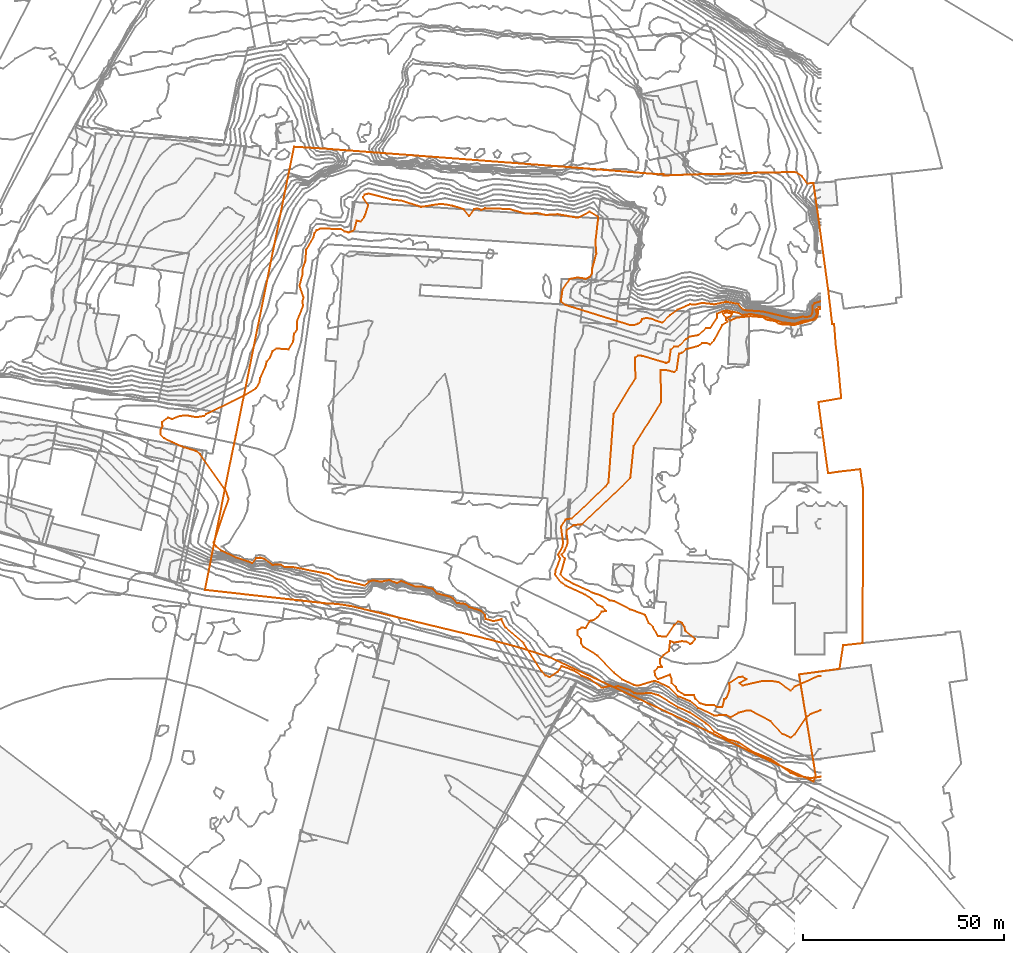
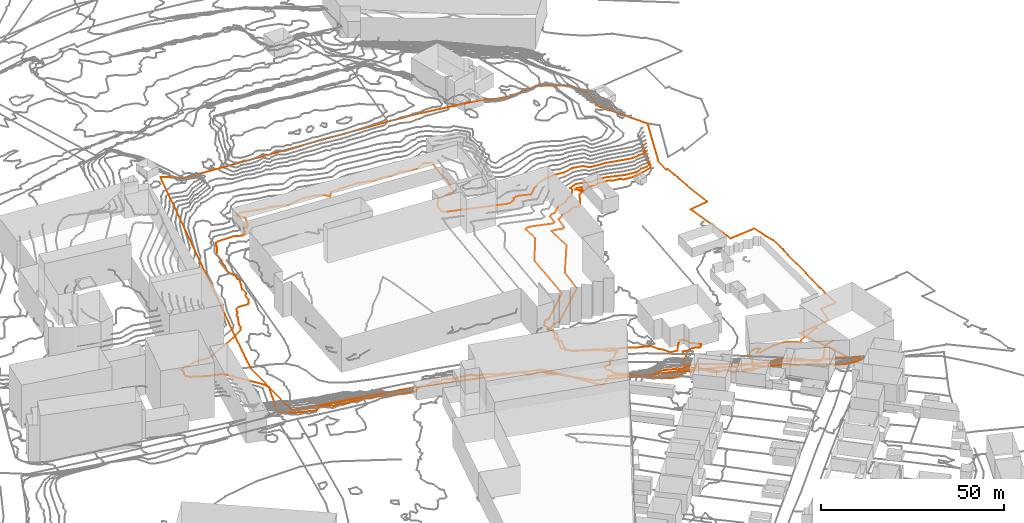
# Not in any storey, part 266 of 419: 4 proxies.
"""IFC2X3 model written with IfcOpenShell, lengths in metres."""

import ifcopenshell
import ifcopenshell.guid

model = None  # the IFC model being written
_history = None  # IfcOwnerHistory: only IFC2X3 demands one
_inside = {}  # id of a spatial element -> (the spatial element, [elements in it])
_under = {}  # id of a project, library or spatial element -> (it, [spatial elements below it])
_declared = {}  # id of a project -> (the project, [libraries it declares])
_typed = {}  # id of a type object -> (the type object, [elements of that type])
_made_of = {}  # id of a material, layer set ... -> (it, [elements and type objects made of it])


def new_model(schema):
    """Start an empty IFC model of exactly this schema.

    Asked for "IFC4X3", IfcOpenShell would pick the latest addendum, in which some entities
    have other attributes; the version numbers below select the first issue.
    IFC2X3 requires an IfcOwnerHistory on every rooted entity: one is made here for all.
    """
    global model, _history
    if schema == "IFC4X3":
        model = ifcopenshell.file(schema_version=(4, 3, 0, 0))
    else:
        model = ifcopenshell.file(schema=schema)
    _inside.clear()
    _under.clear()
    _declared.clear()
    _typed.clear()
    _made_of.clear()
    _history = None
    if model.schema == "IFC2X3":
        org = make("IfcOrganization", Name="unknown")
        user = make(
            "IfcPersonAndOrganization",
            ThePerson=make("IfcPerson", FamilyName="unknown"),
            TheOrganization=org,
        )
        app = make(
            "IfcApplication",
            ApplicationDeveloper=org,
            Version="unknown",
            ApplicationFullName="unknown",
            ApplicationIdentifier="unknown",
        )
        _history = make(
            "IfcOwnerHistory",
            OwningUser=user,
            OwningApplication=app,
            ChangeAction="ADDED",
            CreationDate=0,
        )
    return model


def make(cls, **values):
    """One entity of the class cls with the attributes given. An attribute that is None is left unset."""
    return model.create_entity(
        cls, **{name: value for name, value in values.items() if value is not None}
    )


def entity(cls, *values):
    """Any entity or typed value of the class cls, its attributes in the order of the schema. None: left unset."""
    e = model.create_entity(cls)
    for i, value in enumerate(values):
        if value is not None:
            e[i] = value
    return e


def rooted(cls, **values):
    """An entity with a GlobalId (a new one), such as an element, a storey or a relation."""
    return make(cls, GlobalId=ifcopenshell.guid.new(), OwnerHistory=_history, **values)


def si_unit(unit_type, name, prefix=None):
    """IfcSIUnit, for example si_unit("LENGTHUNIT", "METRE", prefix="MILLI")."""
    return make("IfcSIUnit", UnitType=unit_type, Prefix=prefix, Name=name)


def assignment(units):
    """IfcUnitAssignment: the units of a project."""
    return None if units is None else make("IfcUnitAssignment", Units=units)


def point(xyz):
    """IfcCartesianPoint."""
    return None if xyz is None else make("IfcCartesianPoint", Coordinates=xyz)


def direction(xyz):
    """IfcDirection."""
    return None if xyz is None else make("IfcDirection", DirectionRatios=xyz)


def frame(location, z_axis=None, x_axis=None):
    """IfcAxis2Placement3D, a coordinate frame: its origin and axes. An axis left out is left unset."""
    return make(
        "IfcAxis2Placement3D",
        Location=point(location),
        Axis=direction(z_axis),
        RefDirection=direction(x_axis),
    )


def origin_with_axes():
    """The frame at (0, 0, 0) with the z axis (0, 0, 1) and the x axis (1, 0, 0) written out."""
    return frame((0.0, 0.0, 0.0), z_axis=(0.0, 0.0, 1.0), x_axis=(1.0, 0.0, 0.0))


def place(relative_to, where):
    """IfcLocalPlacement: puts the frame where relative to a parent placement (None: the world)."""
    return make(
        "IfcLocalPlacement", PlacementRelTo=relative_to, RelativePlacement=where
    )


def context(
    kind, dimensions, precision=None, world=None, true_north=None, identifier=None
):
    """IfcGeometricRepresentationContext, for example the 3D "Model" context."""
    return make(
        "IfcGeometricRepresentationContext",
        ContextIdentifier=identifier,
        ContextType=kind,
        CoordinateSpaceDimension=dimensions,
        Precision=precision,
        WorldCoordinateSystem=world,
        TrueNorth=true_north,
    )


def subcontext(parent, identifier, kind, view, scale=None):
    """IfcGeometricRepresentationSubContext, for example "Body" below "Model"."""
    return make(
        "IfcGeometricRepresentationSubContext",
        ContextIdentifier=identifier,
        ContextType=kind,
        ParentContext=parent,
        TargetScale=scale,
        TargetView=view,
    )


def project(units=None, contexts=None):
    """IfcProject with its units and contexts."""
    return rooted(
        "IfcProject",
        Name="project",
        RepresentationContexts=contexts,
        UnitsInContext=assignment(units),
    )


def shape(context_of_items, identifier, shape_type, items):
    """IfcShapeRepresentation: the items that make up one representation, for example the "Body"."""
    return make(
        "IfcShapeRepresentation",
        ContextOfItems=context_of_items,
        RepresentationIdentifier=identifier,
        RepresentationType=shape_type,
        Items=items,
    )


def made_of(thing, what):
    """Note that an element or type object is made of a material, layer set ...; save() writes the relation."""
    if what is not None:
        _made_of.setdefault(what.id(), (what, []))[1].append(thing)
    return thing


def element(
    cls,
    number,
    at=None,
    inside=None,
    cuts=None,
    type_object=None,
    material=None,
    context=None,
    identifier="Body",
    shape_type=None,
    held_by="IfcProductDefinitionShape",
    body=None,
    shapes=None,
    **own,
):
    """One element of the class cls, such as IfcWall. Its Tag is "e" and its number.

    at: its placement. inside: the storey or other place that contains it. cuts: it is an
    opening in that element (IfcRelVoidsElement). A single representation is given by context,
    identifier, shape_type and body (its items); several are given by shapes. held_by: the class
    of the entity that holds the representations. save() writes the other relations.
    """
    e = rooted(cls, Tag="e%d" % number, ObjectPlacement=at, **own)
    if body is not None:
        shapes = [shape(context, identifier, shape_type, body)]
    if shapes is not None:
        e.Representation = make(held_by, Representations=shapes)
    if inside is not None:
        _inside.setdefault(inside.id(), (inside, []))[1].append(e)
    if cuts is not None:
        rooted(
            "IfcRelVoidsElement", RelatingBuildingElement=cuts, RelatedOpeningElement=e
        )
    if type_object is not None:
        _typed.setdefault(type_object.id(), (type_object, []))[1].append(e)
    return made_of(e, material)


def aggregate(whole, parts):
    """IfcRelAggregates: a whole, such as a stair, and the parts it consists of."""
    return rooted("IfcRelAggregates", RelatingObject=whole, RelatedObjects=parts)


def save(model, path):
    """Write the relations noted so far, then the file.

    IfcRelAggregates (storeys below a building ...), IfcRelContainedInSpatialStructure (elements
    in a storey), IfcRelDefinesByType, IfcRelAssociatesMaterial and IfcRelDeclares: one each for
    every whole, place, type object, material and project.
    """
    for whole, parts in _under.values():
        aggregate(whole, parts)
    for where, things in _inside.values():
        rooted(
            "IfcRelContainedInSpatialStructure",
            RelatedElements=things,
            RelatingStructure=where,
        )
    for kind, things in _typed.values():
        rooted("IfcRelDefinesByType", RelatedObjects=things, RelatingType=kind)
    for what, things in _made_of.values():
        rooted("IfcRelAssociatesMaterial", RelatedObjects=things, RelatingMaterial=what)
    for by, libraries in _declared.values():
        rooted("IfcRelDeclares", RelatingContext=by, RelatedDefinitions=libraries)
    model.write(path)


model = new_model("IFC2X3")

# Units and contexts
model_context = context("Model", 3, precision=1e-05, world=origin_with_axes())
body_context = subcontext(model_context, "Body", "Model", "MODEL_VIEW")
ifc_project = project(units=[si_unit("AREAUNIT", "SQUARE_METRE"), si_unit("LENGTHUNIT", "METRE")], contexts=[model_context])

# Proxies
proxy_1_placement = place(None, frame((823.2920204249, 359.1176909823, 82.1932387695), z_axis=(0.0, 0.0, 1.0), x_axis=(1.0, 0.0, 0.0)))
element("IfcBuildingElementProxy", 1, at=proxy_1_placement, Name="Cadastre 31", ObjectType="NOTDEFINED", context=body_context, shape_type="GeometricCurveSet", body=[
    entity("IfcGeometricCurveSet", [entity("IfcPolyline", [entity("IfcCartesianPoint", [151.47, -47.71, -6.2456293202]), entity("IfcCartesianPoint", [140.71, -42.6099999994, -6.6842020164]), entity("IfcCartesianPoint", [132.8099999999, -38.8999999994, -6.4587627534]), entity("IfcCartesianPoint", [125.22, -35.21, -7.0477667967]), entity("IfcCartesianPoint", [85.6799999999, -16.7199999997, -9.9244397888]), entity("IfcCartesianPoint", [78.22, -14.3399999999, -7.2026421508]), entity("IfcCartesianPoint", [71.4199999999, -12.5099999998, -3.7872431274]), entity("IfcCartesianPoint", [40.0499999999, -4.9199999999, -2.7772403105]), entity("IfcCartesianPoint", [36.0199999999, -3.9699999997, -2.5515360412]), entity("IfcCartesianPoint", [32.8999999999, -3.5099999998, -2.4744575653]), entity("IfcCartesianPoint", [30.0699999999, -3.3399999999, -2.1826726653]), entity("IfcCartesianPoint", [0.0, 0.0, 0.0]), entity("IfcCartesianPoint", [6.73, 33.8700000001, -8.9814376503]), entity("IfcCartesianPoint", [7.6899999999, 38.3200000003, -8.9176826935]), entity("IfcCartesianPoint", [22.2, 110.3100000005, 3.1446906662]), entity("IfcCartesianPoint", [29.4399999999, 109.8600000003, 0.5168230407]), entity("IfcCartesianPoint", [91.0499999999, 105.2000000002, 0.5810593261]), entity("IfcCartesianPoint", [99.8099999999, 104.5, 0.4727026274]), entity("IfcCartesianPoint", [112.99, 103.4500000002, -0.2532362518]), entity("IfcCartesianPoint", [114.1499999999, 103.5, -0.23628685]), entity("IfcCartesianPoint", [114.1399999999, 103.1800000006, -0.2665162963]), entity("IfcCartesianPoint", [114.8999999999, 103.1800000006, -0.2624367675]), entity("IfcCartesianPoint", [121.1399999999, 103.4000000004, -1.3342921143]), entity("IfcCartesianPoint", [122.6699999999, 103.4500000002, -2.1352347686]), entity("IfcCartesianPoint", [128.23, 103.5700000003, -3.0919394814]), entity("IfcCartesianPoint", [129.0699999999, 103.54, -3.0223084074]), entity("IfcCartesianPoint", [130.0299999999, 103.6100000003, -3.0844468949]), entity("IfcCartesianPoint", [135.0, 103.75, -2.951229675]), entity("IfcCartesianPoint", [137.0299999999, 103.8200000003, -2.6332462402]), entity("IfcCartesianPoint", [146.7599999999, 104.0200000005, -6.1156542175]), entity("IfcCartesianPoint", [147.3199999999, 103.8400000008, -6.2584302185]), entity("IfcCartesianPoint", [148.72, 102.8800000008, -6.8069994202]), entity("IfcCartesianPoint", [149.98, 101.1800000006, -7.7630413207]), entity("IfcCartesianPoint", [151.5, 101.2700000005, -8.460298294]), entity("IfcCartesianPoint", [152.3099999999, 95.6100000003, -10.1520353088]), entity("IfcCartesianPoint", [155.2, 74.5100000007, -3.9377398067]), entity("IfcCartesianPoint", [155.7799999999, 69.5300000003, -13.7207389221]), entity("IfcCartesianPoint", [156.1699999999, 66.21, -14.5811382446]), entity("IfcCartesianPoint", [156.6499999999, 66.2000000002, -14.5808382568]), entity("IfcCartesianPoint", [156.8899999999, 63.0700000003, -14.5711371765]), entity("IfcCartesianPoint", [157.0199999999, 61.2000000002, -14.5256405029]), entity("IfcCartesianPoint", [157.5399999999, 57.1800000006, -14.8962409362]), entity("IfcCartesianPoint", [158.4199999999, 47.7200000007, -14.8404372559]), entity("IfcCartesianPoint", [152.73, 46.7800000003, -14.8582358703]), entity("IfcCartesianPoint", [155.1399999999, 29.0300000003, -14.6282382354]), entity("IfcCartesianPoint", [157.5199999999, 29.3900000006, -14.6631382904]), entity("IfcCartesianPoint", [163.1499999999, 30.0600000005, -14.7234409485]), entity("IfcCartesianPoint", [163.63, 26.6500000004, -14.5280388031]), entity("IfcCartesianPoint", [163.7999999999, 25.4500000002, -14.5464392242]), entity("IfcCartesianPoint", [163.85, 21.0100000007, -13.4127404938]), entity("IfcCartesianPoint", [163.88, 16.8900000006, -13.1610395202]), entity("IfcCartesianPoint", [163.8899999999, 15.6900000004, -13.1968381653]), entity("IfcCartesianPoint", [163.86, 14.9000000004, -13.2322365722]), entity("IfcCartesianPoint", [163.7999999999, 12.6600000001, -13.3380420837]), entity("IfcCartesianPoint", [163.7899999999, 8.1300000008, -13.403237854]), entity("IfcCartesianPoint", [163.7899999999, 2.9800000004, -13.4062384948]), entity("IfcCartesianPoint", [163.7799999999, -0.46, -13.4506403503]), entity("IfcCartesianPoint", [163.7599999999, -4.6499999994, -13.535335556]), entity("IfcCartesianPoint", [163.73, -7.46, -13.4758381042]), entity("IfcCartesianPoint", [163.6899999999, -9.3399999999, -13.4408382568]), entity("IfcCartesianPoint", [163.73, -10.8899999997, -13.4415384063]), entity("IfcCartesianPoint", [163.73, -13.25, -13.4285392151]), entity("IfcCartesianPoint", [158.8999999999, -13.7799999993, -13.4344368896]), entity("IfcCartesianPoint", [157.96, -19.6399999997, -13.3404384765]), entity("IfcCartesianPoint", [147.9399999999, -21.04, -13.3596552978]), entity("IfcCartesianPoint", [151.3999999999, -42.2599999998, -9.9126985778]), entity("IfcCartesianPoint", [151.5699999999, -43.1499999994, -9.6566625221]), entity("IfcCartesianPoint", [152.0599999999, -46.2799999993, -7.9669834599]), entity("IfcCartesianPoint", [151.47, -47.71, -6.2456293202])])]),
])
proxy_2_placement = place(None, frame((911.7893852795, 362.8976909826, 69.0), z_axis=(0.0, 0.0, 1.0), x_axis=(1.0, 0.0, 0.0)))
element("IfcBuildingElementProxy", 2, at=proxy_2_placement, Name="Contour 69.0 m", ObjectType="NOTDEFINED", context=body_context, shape_type="GeometricCurveSet", body=[
    entity("IfcGeometricCurveSet", [entity("IfcPolyline", [entity("IfcCartesianPoint", [64.8026351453, 66.1904770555, 0.0]), entity("IfcCartesianPoint", [64.0816404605, 66.0, 0.0]), entity("IfcCartesianPoint", [64.1369376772, 65.0, 0.0]), entity("IfcCartesianPoint", [63.798396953, 64.0, 0.0]), entity("IfcCartesianPoint", [63.3026351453, 63.5393709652, 0.0]), entity("IfcCartesianPoint", [58.3026351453, 62.1710519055, 0.0]), entity("IfcCartesianPoint", [55.3026351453, 62.2864323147, 0.0]), entity("IfcCartesianPoint", [54.3026351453, 62.5041331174, 0.0]), entity("IfcCartesianPoint", [53.3026351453, 63.1384605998, 0.0]), entity("IfcCartesianPoint", [51.3026351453, 63.4545454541, 0.0]), entity("IfcCartesianPoint", [50.3026351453, 64.0983142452, 0.0]), entity("IfcCartesianPoint", [47.3026351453, 64.3426972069, 0.0]), entity("IfcCartesianPoint", [43.9026198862, 64.0, 0.0]), entity("IfcCartesianPoint", [42.3026351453, 63.2221939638, 0.0]), entity("IfcCartesianPoint", [41.5248291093, 64.0, 0.0]), entity("IfcCartesianPoint", [42.3026351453, 64.3181786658, 0.0]), entity("IfcCartesianPoint", [42.7312128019, 65.0, 0.0]), entity("IfcCartesianPoint", [41.3026351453, 65.2673792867, 0.0]), entity("IfcCartesianPoint", [40.4405689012, 65.0, 0.0]), entity("IfcCartesianPoint", [41.2581978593, 64.0, 0.0]), entity("IfcCartesianPoint", [41.3026351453, 63.3334181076, 0.0]), entity("IfcCartesianPoint", [41.6360532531, 63.0, 0.0]), entity("IfcCartesianPoint", [40.3026351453, 62.1666719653, 0.0]), entity("IfcCartesianPoint", [38.3026351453, 58.434784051, 0.0]), entity("IfcCartesianPoint", [37.3026351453, 57.2916679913, 0.0]), entity("IfcCartesianPoint", [36.3026351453, 57.7083320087, 0.0]), entity("IfcCartesianPoint", [35.3026351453, 57.6756706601, 0.0]), entity("IfcCartesianPoint", [34.3026351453, 56.9459543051, 0.0]), entity("IfcCartesianPoint", [31.3026351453, 56.1388971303, 0.0]), entity("IfcCartesianPoint", [30.3026351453, 55.2558151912, 0.0]), entity("IfcCartesianPoint", [29.5169130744, 55.0, 0.0]), entity("IfcCartesianPoint", [28.9454870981, 51.0, 0.0]), entity("IfcCartesianPoint", [28.3026351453, 50.4375019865, 0.0]), entity("IfcCartesianPoint", [26.0526589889, 51.0, 0.0]), entity("IfcCartesianPoint", [24.9276411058, 51.0, 0.0]), entity("IfcCartesianPoint", [25.1026656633, 43.0, 0.0]), entity("IfcCartesianPoint", [18.2359549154, 32.0, 0.0]), entity("IfcCartesianPoint", [17.3935316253, 24.0, 0.0]), entity("IfcCartesianPoint", [5.3026351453, 12.5357220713, 0.0]), entity("IfcCartesianPoint", [3.3026351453, 12.3513516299, 0.0]), entity("IfcCartesianPoint", [1.4798493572, 11.0, 0.0]), entity("IfcCartesianPoint", [1.8470762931, 8.0, 0.0]), entity("IfcCartesianPoint", [1.0818573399, 6.0, 0.0]), entity("IfcCartesianPoint", [0.3026362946, 5.0, 0.0]), entity("IfcCartesianPoint", [1.1379296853, 4.0, 0.0]), entity("IfcCartesianPoint", [0.0, 0.0, 0.0]), entity("IfcCartesianPoint", [1.3026351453, -1.2463760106, 0.0]), entity("IfcCartesianPoint", [3.3026351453, -2.3043471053, 0.0]), entity("IfcCartesianPoint", [8.3026351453, -4.6125008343, 0.0]), entity("IfcCartesianPoint", [10.3026351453, -5.2537293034, 0.0]), entity("IfcCartesianPoint", [12.3026351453, -6.424997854, 0.0]), entity("IfcCartesianPoint", [13.3026351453, -6.5479447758, 0.0]), entity("IfcCartesianPoint", [17.3026351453, -8.6144590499, 0.0]), entity("IfcCartesianPoint", [21.1111509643, -10.0, 0.0]), entity("IfcCartesianPoint", [22.0085188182, -12.0, 0.0]), entity("IfcCartesianPoint", [23.0455016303, -13.0, 0.0]), entity("IfcCartesianPoint", [24.3026351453, -15.285667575, 0.0]), entity("IfcCartesianPoint", [26.3026351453, -15.4444350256, 0.0]), entity("IfcCartesianPoint", [28.3026351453, -12.5714441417, 0.0]), entity("IfcCartesianPoint", [29.3026351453, -11.60003052, 0.0]), entity("IfcCartesianPoint", [30.3026851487, -12.0, 0.0]), entity("IfcCartesianPoint", [30.9026656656, -13.0, 0.0]), entity("IfcCartesianPoint", [31.1026046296, -14.0, 0.0]), entity("IfcCartesianPoint", [33.5026656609, -16.0, 0.0]), entity("IfcCartesianPoint", [32.8026601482, -17.0, 0.0]), entity("IfcCartesianPoint", [32.3026351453, -17.2499761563, 0.0]), entity("IfcCartesianPoint", [31.3026351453, -16.6818213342, 0.0]), entity("IfcCartesianPoint", [30.3026351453, -16.5500114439, 0.0]), entity("IfcCartesianPoint", [28.3026351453, -16.8749761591, 0.0]), entity("IfcCartesianPoint", [27.3026351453, -16.5000250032, 0.0]), entity("IfcCartesianPoint", [27.0525874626, -19.0, 0.0]), entity("IfcCartesianPoint", [25.6360532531, -20.0, 0.0]), entity("IfcCartesianPoint", [24.8026601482, -21.0, 0.0]), entity("IfcCartesianPoint", [24.8026851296, -22.0, 0.0]), entity("IfcCartesianPoint", [25.3026601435, -23.0, 0.0]), entity("IfcCartesianPoint", [24.3026351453, -23.0000166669, 0.0]), entity("IfcCartesianPoint", [23.4455234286, -24.0, 0.0]), entity("IfcCartesianPoint", [23.5883027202, -25.0, 0.0]), entity("IfcCartesianPoint", [24.3026351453, -25.9999800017, 0.0]), entity("IfcCartesianPoint", [27.3026351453, -24.8888700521, 0.0]), entity("IfcCartesianPoint", [27.7193177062, -26.0, 0.0]), entity("IfcCartesianPoint", [27.7193177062, -27.0, 0.0]), entity("IfcCartesianPoint", [28.8026601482, -28.0, 0.0]), entity("IfcCartesianPoint", [29.278239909, -29.0, 0.0]), entity("IfcCartesianPoint", [30.9692170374, -30.0, 0.0]), entity("IfcCartesianPoint", [33.3026351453, -29.9999875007, 0.0]), entity("IfcCartesianPoint", [33.6360532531, -31.0, 0.0]), entity("IfcCartesianPoint", [34.7026046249, -32.0, 0.0]), entity("IfcCartesianPoint", [36.3026351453, -32.4285558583, 0.0]), entity("IfcCartesianPoint", [38.3026351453, -32.4999833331, 0.0]), entity("IfcCartesianPoint", [39.0525874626, -33.0, 0.0]), entity("IfcCartesianPoint", [40.3025351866, -33.0, 0.0]), entity("IfcCartesianPoint", [40.8026101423, -31.0, 0.0]), entity("IfcCartesianPoint", [41.3026351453, -30.7500238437, 0.0]), entity("IfcCartesianPoint", [41.994929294, -29.0, 0.0]), entity("IfcCartesianPoint", [42.177611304, -28.0, 0.0]), entity("IfcCartesianPoint", [41.994929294, -27.0, 0.0]), entity("IfcCartesianPoint", [44.3026351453, -25.4545706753, 0.0]), entity("IfcCartesianPoint", [45.3026351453, -25.39996948, 0.0]), entity("IfcCartesianPoint", [46.3026684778, -26.0, 0.0]), entity("IfcCartesianPoint", [44.5526828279, -27.0, 0.0]), entity("IfcCartesianPoint", [45.3026351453, -27.60003052, 0.0]), entity("IfcCartesianPoint", [50.3026351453, -26.4375089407, 0.0]), entity("IfcCartesianPoint", [53.3026351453, -26.5454293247, 0.0]), entity("IfcCartesianPoint", [54.3026351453, -26.7778060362, 0.0]), entity("IfcCartesianPoint", [57.3026351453, -28.8749761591, 0.0]), entity("IfcCartesianPoint", [58.3026351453, -27.8333545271, 0.0]), entity("IfcCartesianPoint", [64.3026351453, -25.1666454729, 0.0]), entity("IfcCartesianPoint", [64.8026351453, -25.1666454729, 0.0])])]),
])
proxy_3_placement = place(None, frame((910.4653521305, 362.8976909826, 70.0), z_axis=(0.0, 0.0, 1.0), x_axis=(1.0, 0.0, 0.0)))
element("IfcBuildingElementProxy", 3, at=proxy_3_placement, Name="Contour 70.0 m", ObjectType="NOTDEFINED", context=body_context, shape_type="GeometricCurveSet", body=[
    entity("IfcGeometricCurveSet", [entity("IfcPolyline", [entity("IfcCartesianPoint", [66.1266682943, 66.6666678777, 0.0]), entity("IfcCartesianPoint", [65.6266682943, 66.6666678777, 0.0]), entity("IfcCartesianPoint", [64.8531890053, 66.0, 0.0]), entity("IfcCartesianPoint", [65.1702733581, 65.0, 0.0]), entity("IfcCartesianPoint", [64.6266682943, 63.9330716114, 0.0]), entity("IfcCartesianPoint", [63.6266682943, 63.365801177, 0.0]), entity("IfcCartesianPoint", [61.6266682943, 63.1879897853, 0.0]), entity("IfcCartesianPoint", [59.6266682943, 62.4999996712, 0.0]), entity("IfcCartesianPoint", [56.6266682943, 62.7889454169, 0.0]), entity("IfcCartesianPoint", [51.6266682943, 64.3792133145, 0.0]), entity("IfcCartesianPoint", [48.6266682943, 64.9044953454, 0.0]), entity("IfcCartesianPoint", [46.6266682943, 64.6514282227, 0.0]), entity("IfcCartesianPoint", [45.6266682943, 65.1502899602, 0.0]), entity("IfcCartesianPoint", [42.6266682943, 65.8021378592, 0.0]), entity("IfcCartesianPoint", [41.6266682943, 65.5443792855, 0.0]), entity("IfcCartesianPoint", [40.3078270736, 65.0, 0.0]), entity("IfcCartesianPoint", [40.3084896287, 64.0, 0.0]), entity("IfcCartesianPoint", [38.6266682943, 61.4166640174, 0.0]), entity("IfcCartesianPoint", [37.6266682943, 61.4324391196, 0.0]), entity("IfcCartesianPoint", [35.6266682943, 59.62162608, 0.0]), entity("IfcCartesianPoint", [33.6266682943, 59.3055567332, 0.0]), entity("IfcCartesianPoint", [32.6266682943, 58.7073129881, 0.0]), entity("IfcCartesianPoint", [30.6266682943, 56.7727280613, 0.0]), entity("IfcCartesianPoint", [29.6266682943, 56.736839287, 0.0]), entity("IfcCartesianPoint", [28.8031336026, 56.0, 0.0]), entity("IfcCartesianPoint", [28.3766587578, 53.0, 0.0]), entity("IfcCartesianPoint", [27.6266682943, 52.7169776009, 0.0]), entity("IfcCartesianPoint", [21.6266682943, 54.4912261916, 0.0]), entity("IfcCartesianPoint", [20.6266682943, 54.5217434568, 0.0]), entity("IfcCartesianPoint", [19.8766682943, 54.0, 0.0]), entity("IfcCartesianPoint", [20.0266682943, 49.0, 0.0]), entity("IfcCartesianPoint", [14.5740261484, 40.0, 0.0]), entity("IfcCartesianPoint", [13.2933490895, 23.0, 0.0]), entity("IfcCartesianPoint", [12.5849936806, 22.0, 0.0]), entity("IfcCartesianPoint", [4.1066792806, 14.0, 0.0]), entity("IfcCartesianPoint", [2.6266682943, 13.75, 0.0]), entity("IfcCartesianPoint", [1.487130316, 12.0, 0.0]), entity("IfcCartesianPoint", [1.9970400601, 8.0, 0.0]), entity("IfcCartesianPoint", [1.8205476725, 7.0, 0.0]), entity("IfcCartesianPoint", [0.7792108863, 5.0, 0.0]), entity("IfcCartesianPoint", [1.2500458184, 4.0, 0.0]), entity("IfcCartesianPoint", [0.119420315, 1.0, 0.0]), entity("IfcCartesianPoint", [0.0, 0.0, 0.0]), entity("IfcCartesianPoint", [1.6266682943, -1.9999980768, 0.0]), entity("IfcCartesianPoint", [2.6266682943, -2.7499970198, 0.0]), entity("IfcCartesianPoint", [7.5214199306, -5.0, 0.0]), entity("IfcCartesianPoint", [9.12667385, -6.0, 0.0]), entity("IfcCartesianPoint", [10.6266682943, -7.5555649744, 0.0]), entity("IfcCartesianPoint", [11.7804918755, -8.0, 0.0]), entity("IfcCartesianPoint", [12.689180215, -9.0, 0.0]), entity("IfcCartesianPoint", [11.6266682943, -9.2000305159, 0.0]), entity("IfcCartesianPoint", [10.6266682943, -10.5000250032, 0.0]), entity("IfcCartesianPoint", [9.6266682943, -11.2500476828, 0.0]), entity("IfcCartesianPoint", [8.6266682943, -11.5000250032, 0.0]), entity("IfcCartesianPoint", [7.6266682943, -13.2500476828, 0.0]), entity("IfcCartesianPoint", [6.6266682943, -13.1817992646, 0.0]), entity("IfcCartesianPoint", [5.6266682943, -13.7500238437, 0.0]), entity("IfcCartesianPoint", [5.6266782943, -15.0, 0.0]), entity("IfcCartesianPoint", [6.501644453, -16.0, 0.0]), entity("IfcCartesianPoint", [6.4728447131, -17.0, 0.0]), entity("IfcCartesianPoint", [7.0933281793, -18.0, 0.0]), entity("IfcCartesianPoint", [10.6266682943, -20.1764653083, 0.0]), entity("IfcCartesianPoint", [14.6266682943, -24.3749940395, 0.0]), entity("IfcCartesianPoint", [16.6266682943, -26.0500095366, 0.0]), entity("IfcCartesianPoint", [19.6266682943, -27.4583399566, 0.0]), entity("IfcCartesianPoint", [20.6266682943, -27.6363573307, 0.0]), entity("IfcCartesianPoint", [24.6266682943, -26.4285720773, 0.0]), entity("IfcCartesianPoint", [25.6266682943, -26.7462706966, 0.0]), entity("IfcCartesianPoint", [28.2316057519, -28.0, 0.0]), entity("IfcCartesianPoint", [30.6266682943, -30.2742876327, 0.0]), entity("IfcCartesianPoint", [33.6266682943, -31.4838700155, 0.0]), entity("IfcCartesianPoint", [35.6266682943, -33.1455715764, 0.0]), entity("IfcCartesianPoint", [39.6266682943, -35.0380959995, 0.0]), entity("IfcCartesianPoint", [42.6266682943, -34.913041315, 0.0]), entity("IfcCartesianPoint", [43.6266682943, -35.5526331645, 0.0]), entity("IfcCartesianPoint", [45.6266682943, -34.3749940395, 0.0]), entity("IfcCartesianPoint", [47.6266682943, -33.8125029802, 0.0]), entity("IfcCartesianPoint", [48.6266682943, -33.8333545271, 0.0]), entity("IfcCartesianPoint", [53.6266682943, -36.4444350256, 0.0]), entity("IfcCartesianPoint", [56.6266682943, -39.6250238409, 0.0]), entity("IfcCartesianPoint", [58.6266682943, -40.5555649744, 0.0]), entity("IfcCartesianPoint", [59.6266682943, -39.7500238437, 0.0]), entity("IfcCartesianPoint", [62.6266682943, -35.3749761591, 0.0]), entity("IfcCartesianPoint", [63.6266682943, -34.6363573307, 0.0]), entity("IfcCartesianPoint", [66.1266682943, -33.7272853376, 0.0])])]),
])
proxy_4_placement = place(None, frame((812.2170442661, 397.8976909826, 74.0), z_axis=(0.0, 0.0, 1.0), x_axis=(1.0, 0.0, 0.0)))
element("IfcBuildingElementProxy", 4, at=proxy_4_placement, Name="Contour 74.0 m", ObjectType="NOTDEFINED", context=body_context, shape_type="GeometricCurveSet", body=[
    entity("IfcGeometricCurveSet", [entity("IfcPolyline", [entity("IfcCartesianPoint", [164.3749761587, 33.0656935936, 0.0]), entity("IfcCartesianPoint", [162.8749761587, 32.6022413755, 0.0]), entity("IfcCartesianPoint", [162.3885502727, 32.0, 0.0]), entity("IfcCartesianPoint", [162.2816615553, 30.0, 0.0]), entity("IfcCartesianPoint", [161.8749761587, 29.4229249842, 0.0]), entity("IfcCartesianPoint", [160.8749761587, 29.0904651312, 0.0]), entity("IfcCartesianPoint", [159.8749761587, 29.2323757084, 0.0]), entity("IfcCartesianPoint", [157.8749761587, 28.8184812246, 0.0]), entity("IfcCartesianPoint", [156.8749761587, 28.9144730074, 0.0]), entity("IfcCartesianPoint", [149.8749761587, 30.5173414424, 0.0]), entity("IfcCartesianPoint", [145.8749761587, 30.81579029, 0.0]), entity("IfcCartesianPoint", [144.9999772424, 31.0, 0.0]), entity("IfcCartesianPoint", [143.8749761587, 32.3703688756, 0.0]), entity("IfcCartesianPoint", [140.8749761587, 32.9465247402, 0.0]), entity("IfcCartesianPoint", [137.8749761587, 32.297103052, 0.0]), entity("IfcCartesianPoint", [134.8749761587, 32.6571432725, 0.0]), entity("IfcCartesianPoint", [132.8749761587, 32.1900024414, 0.0]), entity("IfcCartesianPoint", [131.8749761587, 32.333333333, 0.0]), entity("IfcCartesianPoint", [128.7398337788, 31.0, 0.0]), entity("IfcCartesianPoint", [126.8749761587, 29.6590893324, 0.0]), entity("IfcCartesianPoint", [124.8749761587, 27.7213147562, 0.0]), entity("IfcCartesianPoint", [121.8749761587, 28.7936542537, 0.0]), entity("IfcCartesianPoint", [120.8749761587, 28.8870977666, 0.0]), entity("IfcCartesianPoint", [119.8749761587, 28.6667090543, 0.0]), entity("IfcCartesianPoint", [119.6844947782, 28.0, 0.0]), entity("IfcCartesianPoint", [118.8749761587, 27.4687552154, 0.0]), entity("IfcCartesianPoint", [117.8749761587, 27.0937462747, 0.0]), entity("IfcCartesianPoint", [116.8749761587, 27.1276540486, 0.0]), entity("IfcCartesianPoint", [100.8749761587, 32.1132032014, 0.0]), entity("IfcCartesianPoint", [99.6834919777, 33.0, 0.0]), entity("IfcCartesianPoint", [100.0971964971, 36.0, 0.0]), entity("IfcCartesianPoint", [101.8749761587, 38.6176510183, 0.0]), entity("IfcCartesianPoint", [103.8749761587, 38.9890086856, 0.0]), entity("IfcCartesianPoint", [105.8749761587, 38.6415111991, 0.0]), entity("IfcCartesianPoint", [106.8749761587, 39.124996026, 0.0]), entity("IfcCartesianPoint", [107.4637588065, 40.0, 0.0]), entity("IfcCartesianPoint", [107.4374755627, 41.0, 0.0]), entity("IfcCartesianPoint", [108.5178371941, 45.0, 0.0]), entity("IfcCartesianPoint", [108.3055275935, 48.0, 0.0]), entity("IfcCartesianPoint", [109.0054131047, 54.0, 0.0]), entity("IfcCartesianPoint", [106.8749761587, 55.3563210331, 0.0]), entity("IfcCartesianPoint", [103.8749761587, 53.8461515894, 0.0]), entity("IfcCartesianPoint", [98.8749761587, 54.7358495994, 0.0]), entity("IfcCartesianPoint", [95.8749761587, 54.5468731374, 0.0]), entity("IfcCartesianPoint", [93.8749761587, 55.0119072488, 0.0]), entity("IfcCartesianPoint", [90.8749761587, 54.8749970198, 0.0]), entity("IfcCartesianPoint", [86.8749761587, 56.0192276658, 0.0]), entity("IfcCartesianPoint", [80.8749761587, 56.2112688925, 0.0]), entity("IfcCartesianPoint", [79.8749761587, 55.8305100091, 0.0]), entity("IfcCartesianPoint", [78.8749761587, 56.2053596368, 0.0]), entity("IfcCartesianPoint", [78.1330422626, 56.0, 0.0]), entity("IfcCartesianPoint", [76.8749761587, 54.2999923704, 0.0]), entity("IfcCartesianPoint", [75.4582935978, 56.0, 0.0]), entity("IfcCartesianPoint", [72.8749761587, 56.8157889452, 0.0]), entity("IfcCartesianPoint", [69.8749761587, 57.3285740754, 0.0]), entity("IfcCartesianPoint", [64.8749761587, 56.570177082, 0.0]), entity("IfcCartesianPoint", [59.8749761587, 58.1325305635, 0.0]), entity("IfcCartesianPoint", [57.8749761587, 58.2999990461, 0.0]), entity("IfcCartesianPoint", [51.8749761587, 59.8730139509, 0.0]), entity("IfcCartesianPoint", [50.8749761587, 59.666662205, 0.0]), entity("IfcCartesianPoint", [50.4058423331, 59.0, 0.0]), entity("IfcCartesianPoint", [51.7149724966, 57.0, 0.0]), entity("IfcCartesianPoint", [50.7549810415, 54.0, 0.0]), entity("IfcCartesianPoint", [49.8749761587, 52.8947516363, 0.0]), entity("IfcCartesianPoint", [48.8749761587, 53.0999847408, 0.0]), entity("IfcCartesianPoint", [48.2916463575, 51.0, 0.0]), entity("IfcCartesianPoint", [47.8749761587, 50.5454524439, 0.0]), entity("IfcCartesianPoint", [46.8749761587, 50.2253551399, 0.0]), entity("IfcCartesianPoint", [45.8749761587, 50.4392536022, 0.0]), entity("IfcCartesianPoint", [44.8749761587, 51.0560725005, 0.0]), entity("IfcCartesianPoint", [39.8749761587, 51.1547593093, 0.0]), entity("IfcCartesianPoint", [38.8749761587, 50.7641504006, 0.0]), entity("IfcCartesianPoint", [38.3349777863, 50.0, 0.0]), entity("IfcCartesianPoint", [38.1225003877, 49.0, 0.0]), entity("IfcCartesianPoint", [36.320288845, 46.0, 0.0]), entity("IfcCartesianPoint", [36.06775123, 43.0, 0.0]), entity("IfcCartesianPoint", [35.3396227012, 41.0, 0.0]), entity("IfcCartesianPoint", [35.4527541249, 40.0, 0.0]), entity("IfcCartesianPoint", [34.6416438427, 37.0, 0.0]), entity("IfcCartesianPoint", [35.6276608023, 34.0, 0.0]), entity("IfcCartesianPoint", [35.3392631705, 33.0, 0.0]), entity("IfcCartesianPoint", [35.5301461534, 32.0, 0.0]), entity("IfcCartesianPoint", [33.963207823, 28.0, 0.0]), entity("IfcCartesianPoint", [33.9961903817, 26.0, 0.0]), entity("IfcCartesianPoint", [33.2638626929, 25.0, 0.0]), entity("IfcCartesianPoint", [33.0451923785, 23.0, 0.0]), entity("IfcCartesianPoint", [31.8749761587, 21.0833492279, 0.0]), entity("IfcCartesianPoint", [28.8749761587, 21.3157852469, 0.0]), entity("IfcCartesianPoint", [27.8749761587, 20.6250238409, 0.0]), entity("IfcCartesianPoint", [27.2749761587, 19.0, 0.0]), entity("IfcCartesianPoint", [26.4204401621, 18.0, 0.0]), entity("IfcCartesianPoint", [26.2219127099, 17.0, 0.0]), entity("IfcCartesianPoint", [24.8365208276, 14.0, 0.0]), entity("IfcCartesianPoint", [24.7083116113, 13.0, 0.0]), entity("IfcCartesianPoint", [23.8749761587, 11.4705935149, 0.0]), entity("IfcCartesianPoint", [20.8749761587, 9.5925967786, 0.0]), entity("IfcCartesianPoint", [11.3416360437, 5.0, 0.0]), entity("IfcCartesianPoint", [10.8749761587, 4.4999964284, 0.0]), entity("IfcCartesianPoint", [8.8749761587, 4.2241354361, 0.0]), entity("IfcCartesianPoint", [6.8749761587, 4.5714285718, 0.0]), entity("IfcCartesianPoint", [4.8749761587, 4.551735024, 0.0]), entity("IfcCartesianPoint", [2.8749761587, 3.7500238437, 0.0]), entity("IfcCartesianPoint", [1.8749761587, 4.117628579, 0.0]), entity("IfcCartesianPoint", [0.3749861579, 3.0, 0.0]), entity("IfcCartesianPoint", [0.5, 2.0, 0.0]), entity("IfcCartesianPoint", [0.0178644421, 1.0, 0.0]), entity("IfcCartesianPoint", [0.0, 0.0, 0.0]), entity("IfcCartesianPoint", [0.8749861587, -1.0, 0.0]), entity("IfcCartesianPoint", [2.8749761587, -2.0277836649, 0.0]), entity("IfcCartesianPoint", [5.8749761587, -3.3030239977, 0.0]), entity("IfcCartesianPoint", [8.8749761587, -4.1874925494, 0.0]), entity("IfcCartesianPoint", [9.8379317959, -5.0, 0.0]), entity("IfcCartesianPoint", [16.2542874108, -14.0, 0.0]), entity("IfcCartesianPoint", [16.9969337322, -16.0, 0.0]), entity("IfcCartesianPoint", [13.27081181, -27.0, 0.0]), entity("IfcCartesianPoint", [13.9149770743, -28.0, 0.0]), entity("IfcCartesianPoint", [15.1170837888, -29.0, 0.0]), entity("IfcCartesianPoint", [18.8749761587, -30.7398855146, 0.0]), entity("IfcCartesianPoint", [22.8749761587, -32.0812732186, 0.0]), entity("IfcCartesianPoint", [23.8749761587, -30.9097238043, 0.0]), entity("IfcCartesianPoint", [24.8749761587, -30.7823133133, 0.0]), entity("IfcCartesianPoint", [25.8749761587, -31.0449448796, 0.0]), entity("IfcCartesianPoint", [27.8749761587, -32.5707320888, 0.0]), entity("IfcCartesianPoint", [29.8749761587, -32.4177788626, 0.0]), entity("IfcCartesianPoint", [30.8749761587, -33.130574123, 0.0]), entity("IfcCartesianPoint", [32.8749761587, -33.0975627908, 0.0]), entity("IfcCartesianPoint", [40.8749761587, -34.6562477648, 0.0]), entity("IfcCartesianPoint", [41.8749761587, -34.8888907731, 0.0]), entity("IfcCartesianPoint", [43.8749761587, -36.081394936, 0.0]), entity("IfcCartesianPoint", [50.8749761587, -37.7016120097, 0.0]), entity("IfcCartesianPoint", [51.8749761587, -36.7499989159, 0.0]), entity("IfcCartesianPoint", [52.8749761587, -36.4005760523, 0.0]), entity("IfcCartesianPoint", [54.8749761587, -36.7590357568, 0.0]), entity("IfcCartesianPoint", [56.8749761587, -36.32631562, 0.0]), entity("IfcCartesianPoint", [58.8749761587, -37.0952387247, 0.0]), entity("IfcCartesianPoint", [59.8749761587, -36.551587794, 0.0]), entity("IfcCartesianPoint", [63.5113334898, -38.0, 0.0]), entity("IfcCartesianPoint", [64.8749761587, -37.8963425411, 0.0]), entity("IfcCartesianPoint", [67.8749761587, -38.5285720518, 0.0]), entity("IfcCartesianPoint", [68.8749761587, -39.6666678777, 0.0]), entity("IfcCartesianPoint", [71.8749761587, -40.4345401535, 0.0]), entity("IfcCartesianPoint", [72.8749761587, -40.9877321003, 0.0]), entity("IfcCartesianPoint", [73.8749761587, -42.0401144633, 0.0]), entity("IfcCartesianPoint", [75.8749761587, -42.2834649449, 0.0]), entity("IfcCartesianPoint", [76.8749761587, -43.0612816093, 0.0]), entity("IfcCartesianPoint", [79.7690136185, -44.0, 0.0]), entity("IfcCartesianPoint", [80.8368420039, -45.0, 0.0]), entity("IfcCartesianPoint", [80.9204236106, -46.0, 0.0]), entity("IfcCartesianPoint", [82.8749761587, -46.589287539, 0.0]), entity("IfcCartesianPoint", [84.8749761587, -46.0847503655, 0.0]), entity("IfcCartesianPoint", [85.8749761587, -48.11494142, 0.0]), entity("IfcCartesianPoint", [90.3667839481, -52.0, 0.0]), entity("IfcCartesianPoint", [94.8749761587, -58.9487264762, 0.0]), entity("IfcCartesianPoint", [95.8749761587, -60.0789447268, 0.0]), entity("IfcCartesianPoint", [96.8749761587, -60.4634164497, 0.0]), entity("IfcCartesianPoint", [98.8749761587, -59.1951246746, 0.0]), entity("IfcCartesianPoint", [99.8749761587, -57.7586225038, 0.0]), entity("IfcCartesianPoint", [102.8749761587, -58.8636339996, 0.0]), entity("IfcCartesianPoint", [104.8749761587, -60.1818213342, 0.0]), entity("IfcCartesianPoint", [106.8749761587, -60.9634161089, 0.0]), entity("IfcCartesianPoint", [109.8749761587, -63.1420110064, 0.0]), entity("IfcCartesianPoint", [111.8749761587, -62.6983236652, 0.0]), entity("IfcCartesianPoint", [112.8749761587, -62.9777764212, 0.0]), entity("IfcCartesianPoint", [113.8749761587, -62.7343363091, 0.0]), entity("IfcCartesianPoint", [116.8749761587, -63.7567566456, 0.0]), entity("IfcCartesianPoint", [117.8749761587, -64.4181181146, 0.0]), entity("IfcCartesianPoint", [118.8749761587, -64.6387840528, 0.0]), entity("IfcCartesianPoint", [121.8749761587, -64.4267505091, 0.0]), entity("IfcCartesianPoint", [123.8749761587, -64.9603151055, 0.0]), entity("IfcCartesianPoint", [128.8749761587, -68.0085487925, 0.0]), entity("IfcCartesianPoint", [131.8749761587, -69.3483121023, 0.0]), entity("IfcCartesianPoint", [135.8055275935, -72.0, 0.0]), entity("IfcCartesianPoint", [137.8749761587, -74.0606037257, 0.0]), entity("IfcCartesianPoint", [141.2892604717, -76.0, 0.0]), entity("IfcCartesianPoint", [143.8749761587, -76.728260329, 0.0]), entity("IfcCartesianPoint", [147.2291421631, -79.0, 0.0]), entity("IfcCartesianPoint", [151.8749761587, -80.8962966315, 0.0]), entity("IfcCartesianPoint", [156.8749761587, -84.3150716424, 0.0]), entity("IfcCartesianPoint", [158.8749761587, -85.1301387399, 0.0]), entity("IfcCartesianPoint", [161.8749761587, -85.6375002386, 0.0]), entity("IfcCartesianPoint", [164.3749761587, -85.3017238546, 0.0])])]),
])

save(model, "model.ifc")
